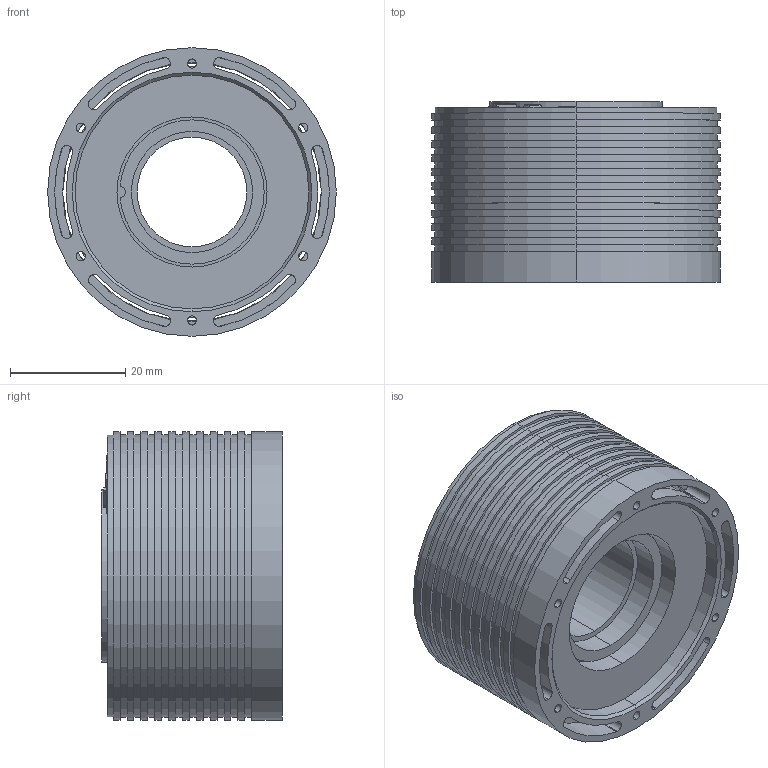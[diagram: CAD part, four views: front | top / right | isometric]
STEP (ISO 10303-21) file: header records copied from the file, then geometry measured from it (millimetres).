
FILE_DESCRIPTION (( 'STEP AP203' ), '1' );
FILE_NAME ('FLO5015.STEP', '2024-10-10T06:00:37', ( '' ), ( '' ), 'SwSTEP 2.0', 'SolidWorks 2020', '' );
FILE_SCHEMA (( 'CONFIG_CONTROL_DESIGN' ));
Length unit declared in the file: millimetre
Products named in the file (9): MT-H5015-0007_Default<偌樓馱>; MT-H5015-0002_Default<偌樓馱>; FLO5015; 3D_50-H-ENCODER_2024-06-18_Default<偌樓馱>; H5015 棠俓_Default<偌樓馱>; MT-H5015-0003_Default<偌樓馱>; 沺郋5015_Default<偌樓馱>; H50-嫩猾脯2_Default<偌樓馱>; H50-嫩猾脯1_Default<偌樓馱>
Assembly tree (34 placements, depth 2):
  FLO5015
    MT-H5015-0002_Default<偌樓馱>
    H50-嫩猾脯2_Default<偌樓馱>
    H50-嫩猾脯1_Default<偌樓馱>
    沺郋5015_Default<偌樓馱>
    H5015 棠俓_Default<偌樓馱>  x26
    MT-H5015-0003_Default<偌樓馱>
    MT-H5015-0007_Default<偌樓馱>  x2
    3D_50-H-ENCODER_2024-06-18_Default<偌樓馱>
Bounding box: 50 x 31.3 x 50 mm (x, y, z)
Volume: 30449.6 mm3; surface area: 43700.9 mm2
Topology: 33 solids, 140 shells, 1401 faces, 5380 edges, 4128 vertices
Faces by surface type: plane 722, cylinder 650, cone 18, bspline 7, torus 4
Entity records: 50648 total; most frequent: CARTESIAN_POINT 13525, DIRECTION 7018, ORIENTED_EDGE 6769, EDGE_CURVE 4440, VERTEX_POINT 3512, LINE 2444, VECTOR 2444, AXIS2_PLACEMENT_3D 2287
